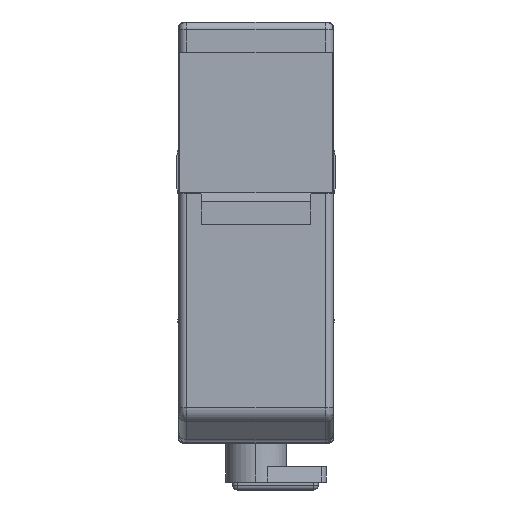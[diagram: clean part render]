
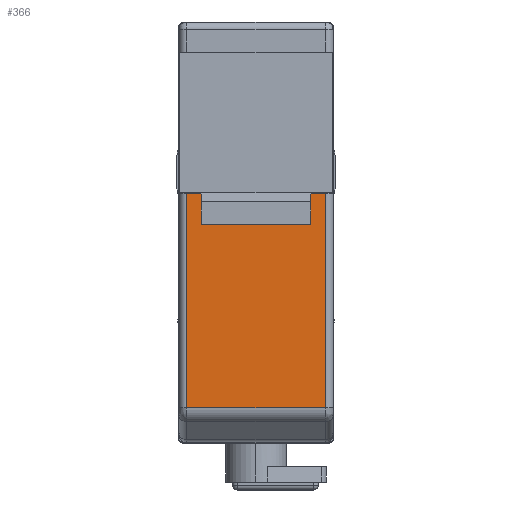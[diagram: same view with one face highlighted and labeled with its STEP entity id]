
A CAD part, top view. The second image highlights one B-rep face of the part: STEP entity #366.
In plain terms, the highlighted planar face has unit normal (0, 0, 1).
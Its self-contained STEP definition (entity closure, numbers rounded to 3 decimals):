
#366=ADVANCED_FACE('',(#1572),#1571,.F.);
#1571=PLANE('',#3689);
#1572=FACE_OUTER_BOUND('',#3690,.T.);
#3686=CARTESIAN_POINT('',(5.34,-26.283,27.4));
#3687=DIRECTION('',(0.,0.,-1.));
#3688=DIRECTION('',(-1.,0.,0.));
#3689=AXIS2_PLACEMENT_3D('',#3686,#3687,#3688);
#3690=EDGE_LOOP('',(#5028,#5029,#5030,#5031,#5032,#5033,#5034,#5035));
#5028=ORIENTED_EDGE('',*,*,#6001,.F.);
#5029=ORIENTED_EDGE('',*,*,#6008,.T.);
#5030=ORIENTED_EDGE('',*,*,#6009,.T.);
#5031=ORIENTED_EDGE('',*,*,#6010,.T.);
#5032=ORIENTED_EDGE('',*,*,#5993,.F.);
#5033=ORIENTED_EDGE('',*,*,#5929,.F.);
#5034=ORIENTED_EDGE('',*,*,#5938,.F.);
#5035=ORIENTED_EDGE('',*,*,#5931,.T.);
#5929=EDGE_CURVE('',#7725,#7710,#7732,.T.);
#5931=EDGE_CURVE('',#7746,#7739,#7747,.T.);
#5938=EDGE_CURVE('',#7746,#7725,#7792,.T.);
#5993=EDGE_CURVE('',#7710,#8162,#8163,.T.);
#6001=EDGE_CURVE('',#8209,#7739,#8216,.T.);
#6008=EDGE_CURVE('',#8209,#8262,#8263,.T.);
#6009=EDGE_CURVE('',#8262,#8269,#8270,.T.);
#6010=EDGE_CURVE('',#8269,#8162,#8276,.T.);
#7710=VERTEX_POINT('',#11206);
#7725=VERTEX_POINT('',#11215);
#7732=LINE('',#11219,#11220);
#7739=VERTEX_POINT('',#11223);
#7746=VERTEX_POINT('',#11227);
#7747=LINE('',#11228,#11229);
#7792=LINE('',#11252,#11253);
#8162=VERTEX_POINT('',#11461);
#8163=LINE('',#11462,#11463);
#8209=VERTEX_POINT('',#11488);
#8216=LINE('',#11493,#11494);
#8262=VERTEX_POINT('',#11518);
#8263=LINE('',#11519,#11520);
#8269=VERTEX_POINT('',#11522);
#8270=LINE('',#11523,#11524);
#8276=LINE('',#11526,#11527);
#11206=CARTESIAN_POINT('',(4.,-11.,27.4));
#11215=CARTESIAN_POINT('',(4.,-9.5,27.4));
#11219=CARTESIAN_POINT('',(4.,-9.5,27.4));
#11220=VECTOR('',#11221,1.5);
#11221=DIRECTION('',(0.,-1.,0.));
#11223=CARTESIAN_POINT('',(-4.,-11.,27.4));
#11227=CARTESIAN_POINT('',(-4.,-9.5,27.4));
#11228=CARTESIAN_POINT('',(-4.,-9.5,27.4));
#11229=VECTOR('',#11230,1.5);
#11230=DIRECTION('',(0.,-1.,0.));
#11252=CARTESIAN_POINT('',(-4.,-9.5,27.4));
#11253=VECTOR('',#11254,8.);
#11254=DIRECTION('',(1.,0.,0.));
#11461=CARTESIAN_POINT('',(4.45,-11.,27.4));
#11462=CARTESIAN_POINT('',(4.,-11.,27.4));
#11463=VECTOR('',#11464,0.45);
#11464=DIRECTION('',(1.,0.,0.));
#11488=CARTESIAN_POINT('',(-4.45,-11.,27.4));
#11493=CARTESIAN_POINT('',(-4.45,-11.,27.4));
#11494=VECTOR('',#11495,0.45);
#11495=DIRECTION('',(1.,0.,0.));
#11518=CARTESIAN_POINT('',(-4.45,-24.758,27.4));
#11519=CARTESIAN_POINT('',(-4.45,-11.,27.4));
#11520=VECTOR('',#11521,13.758);
#11521=DIRECTION('',(0.,-1.,0.));
#11522=CARTESIAN_POINT('',(4.45,-24.758,27.4));
#11523=CARTESIAN_POINT('',(-4.45,-24.758,27.4));
#11524=VECTOR('',#11525,8.9);
#11525=DIRECTION('',(1.,0.,0.));
#11526=CARTESIAN_POINT('',(4.45,-24.758,27.4));
#11527=VECTOR('',#11528,13.758);
#11528=DIRECTION('',(0.,1.,0.));
